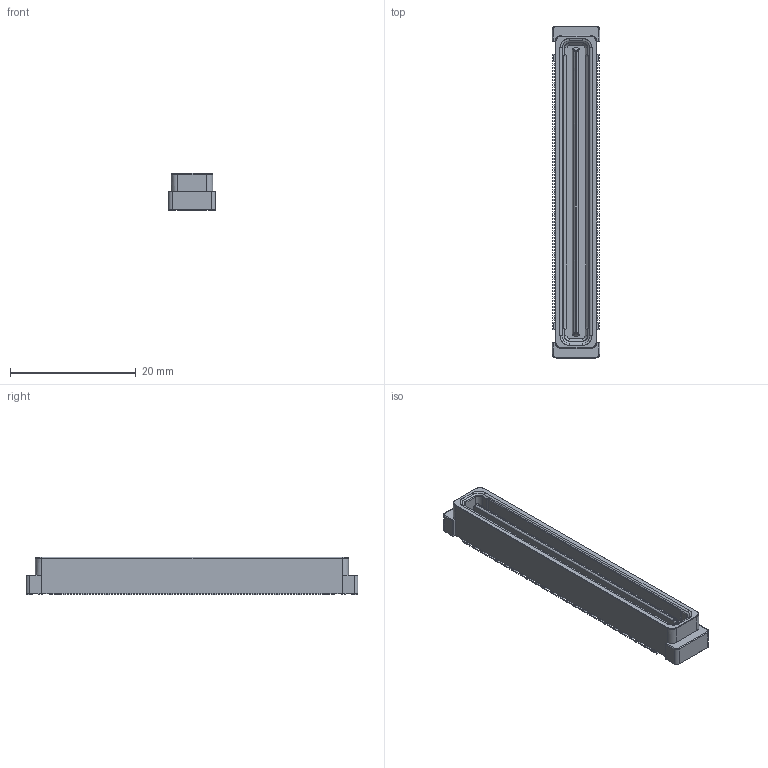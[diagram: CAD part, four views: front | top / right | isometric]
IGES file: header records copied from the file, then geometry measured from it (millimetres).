
Start section: SolidWorks IGES file using analytic representation for surfaces
Bounding box: 7.5 x 52.72 x 5.9 mm (x, y, z)
Surface area: 1877 mm2 (no closed solid volume)
Topology: 0 solids, 0 shells, 1632 faces, 9620 edges, 9608 vertices
Faces by surface type: bspline 1306, revolution 326
